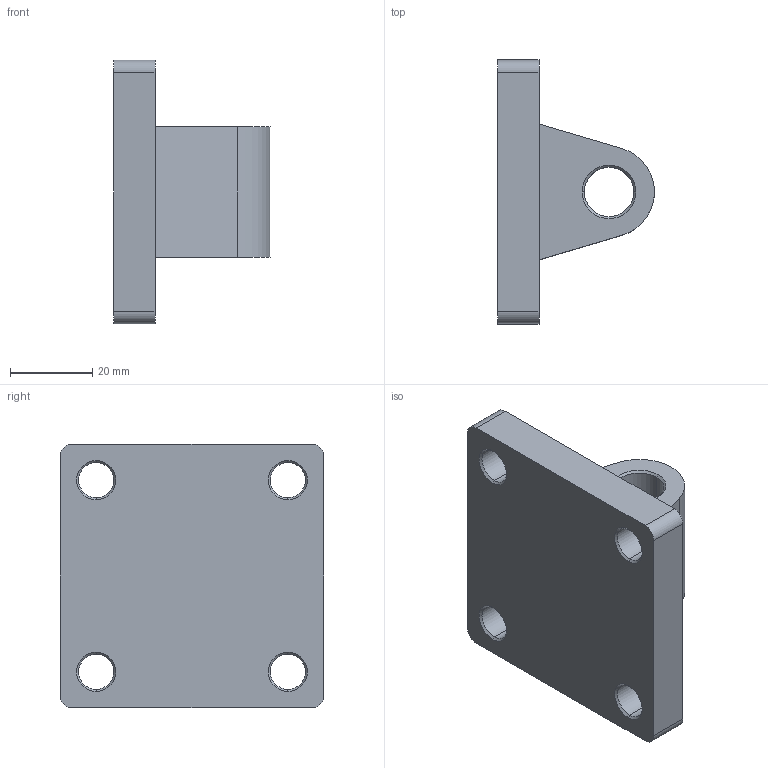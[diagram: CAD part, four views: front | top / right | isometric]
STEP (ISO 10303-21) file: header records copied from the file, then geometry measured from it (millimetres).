
FILE_DESCRIPTION (( 'STEP AP214' ), '1' );
FILE_NAME ('F-SI50CA.STEP', '2016-02-16T15:58:20', ( '' ), ( '' ), 'SwSTEP 2.0', 'SolidWorks 2016', '' );
FILE_SCHEMA (( 'AUTOMOTIVE_DESIGN' ));
Length unit declared in the file: millimetre
Products named in the file (1): F-SI50CA
Bounding box: 37.96 x 64 x 64 mm (x, y, z)
Volume: 55726.8 mm3; surface area: 14713.6 mm2
Topology: 1 solids, 1 shells, 65 faces, 146 edges, 88 vertices
Faces by surface type: cone 28, cylinder 23, plane 14
Entity records: 1864 total; most frequent: DIRECTION 352, CARTESIAN_POINT 300, ORIENTED_EDGE 292, EDGE_CURVE 146, AXIS2_PLACEMENT_3D 140, VERTEX_POINT 88, EDGE_LOOP 80, CIRCLE 74
